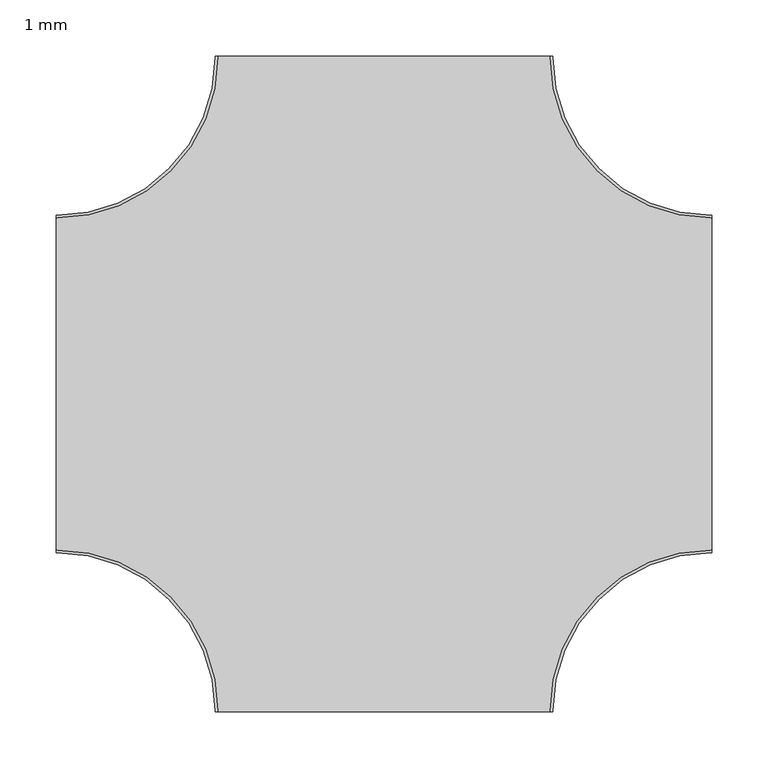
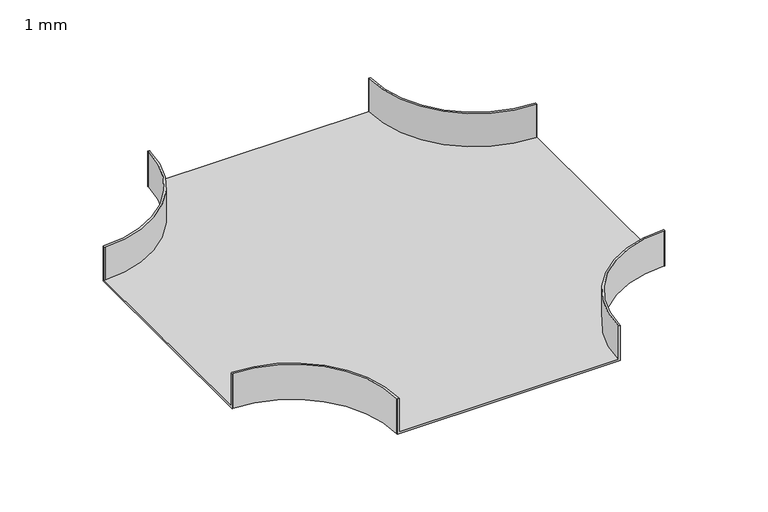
"""IFC4 building model written with IfcOpenShell, lengths in millimetres: cable carrier fitting geometry, BAKS_Czwórnik_koryta (R140) : 1 mm."""

import ifcopenshell
import ifcopenshell.guid

model = None  # the IFC model being written
_history = None  # IfcOwnerHistory: only IFC2X3 demands one
_inside = {}  # id of a spatial element -> (the spatial element, [elements in it])
_under = {}  # id of a project, library or spatial element -> (it, [spatial elements below it])
_declared = {}  # id of a project -> (the project, [libraries it declares])
_typed = {}  # id of a type object -> (the type object, [elements of that type])
_made_of = {}  # id of a material, layer set ... -> (it, [elements and type objects made of it])


def new_model(schema):
    """Start an empty IFC model of exactly this schema.

    Asked for "IFC4X3", IfcOpenShell would pick the latest addendum, in which some entities
    have other attributes; the version numbers below select the first issue.
    IFC2X3 requires an IfcOwnerHistory on every rooted entity: one is made here for all.
    """
    global model, _history
    if schema == "IFC4X3":
        model = ifcopenshell.file(schema_version=(4, 3, 0, 0))
    else:
        model = ifcopenshell.file(schema=schema)
    _inside.clear()
    _under.clear()
    _declared.clear()
    _typed.clear()
    _made_of.clear()
    _history = None
    if model.schema == "IFC2X3":
        org = make("IfcOrganization", Name="unknown")
        user = make(
            "IfcPersonAndOrganization",
            ThePerson=make("IfcPerson", FamilyName="unknown"),
            TheOrganization=org,
        )
        app = make(
            "IfcApplication",
            ApplicationDeveloper=org,
            Version="unknown",
            ApplicationFullName="unknown",
            ApplicationIdentifier="unknown",
        )
        _history = make(
            "IfcOwnerHistory",
            OwningUser=user,
            OwningApplication=app,
            ChangeAction="ADDED",
            CreationDate=0,
        )
    return model


def make(cls, **values):
    """One entity of the class cls with the attributes given. An attribute that is None is left unset."""
    return model.create_entity(
        cls, **{name: value for name, value in values.items() if value is not None}
    )


def rooted(cls, **values):
    """An entity with a GlobalId (a new one), such as an element, a storey or a relation."""
    return make(cls, GlobalId=ifcopenshell.guid.new(), OwnerHistory=_history, **values)


def si_unit(unit_type, name, prefix=None):
    """IfcSIUnit, for example si_unit("LENGTHUNIT", "METRE", prefix="MILLI")."""
    return make("IfcSIUnit", UnitType=unit_type, Prefix=prefix, Name=name)


def assignment(units):
    """IfcUnitAssignment: the units of a project."""
    return None if units is None else make("IfcUnitAssignment", Units=units)


def point(xyz):
    """IfcCartesianPoint."""
    return None if xyz is None else make("IfcCartesianPoint", Coordinates=xyz)


def direction(xyz):
    """IfcDirection."""
    return None if xyz is None else make("IfcDirection", DirectionRatios=xyz)


def frame(location, z_axis=None, x_axis=None):
    """IfcAxis2Placement3D, a coordinate frame: its origin and axes. An axis left out is left unset."""
    return make(
        "IfcAxis2Placement3D",
        Location=point(location),
        Axis=direction(z_axis),
        RefDirection=direction(x_axis),
    )


def origin():
    """The frame at (0, 0, 0) with its axes left unset."""
    return frame((0.0, 0.0, 0.0))


def place(relative_to, where):
    """IfcLocalPlacement: puts the frame where relative to a parent placement (None: the world)."""
    return make(
        "IfcLocalPlacement", PlacementRelTo=relative_to, RelativePlacement=where
    )


def context(
    kind, dimensions, precision=None, world=None, true_north=None, identifier=None
):
    """IfcGeometricRepresentationContext, for example the 3D "Model" context."""
    return make(
        "IfcGeometricRepresentationContext",
        ContextIdentifier=identifier,
        ContextType=kind,
        CoordinateSpaceDimension=dimensions,
        Precision=precision,
        WorldCoordinateSystem=world,
        TrueNorth=true_north,
    )


def project(units=None, contexts=None):
    """IfcProject with its units and contexts."""
    return rooted(
        "IfcProject",
        Name="project",
        RepresentationContexts=contexts,
        UnitsInContext=assignment(units),
    )


def spatial(cls, under=None, at=None, **own):
    """A site, building, storey or space (cls), placed at a placement, below another one or the project."""
    s = rooted(cls, ObjectPlacement=at, **own)
    if under is not None:
        _under.setdefault(under.id(), (under, []))[1].append(s)
    return s


def polyline(points):
    """IfcPolyline through the points."""
    return make("IfcPolyline", Points=[point(p) for p in points])


def circle_curve(where, radius):
    """IfcCircle in the frame where."""
    return make("IfcCircle", Position=where, Radius=radius)


def shape(context_of_items, identifier, shape_type, items):
    """IfcShapeRepresentation: the items that make up one representation, for example the "Body"."""
    return make(
        "IfcShapeRepresentation",
        ContextOfItems=context_of_items,
        RepresentationIdentifier=identifier,
        RepresentationType=shape_type,
        Items=items,
    )


def source(mapping_origin, context_of_items, identifier, shape_type, items):
    """IfcRepresentationMap: a shape defined once, which mapped items show again and again."""
    return make(
        "IfcRepresentationMap",
        MappingOrigin=mapping_origin,
        MappedRepresentation=shape(context_of_items, identifier, shape_type, items),
    )


def transform(
    local_origin,
    x_axis=None,
    y_axis=None,
    z_axis=None,
    scale=None,
    scale2=None,
    scale3=None,
    uniform=True,
):
    """IfcCartesianTransformationOperator3D, or its non-uniform kind. x_axis, y_axis, z_axis: its Axis1, 2, 3."""
    if uniform:
        return make(
            "IfcCartesianTransformationOperator3D",
            Axis1=direction(x_axis),
            Axis2=direction(y_axis),
            LocalOrigin=point(local_origin),
            Scale=scale,
            Axis3=direction(z_axis),
        )
    return make(
        "IfcCartesianTransformationOperator3DnonUniform",
        Axis1=direction(x_axis),
        Axis2=direction(y_axis),
        LocalOrigin=point(local_origin),
        Scale=scale,
        Axis3=direction(z_axis),
        Scale2=scale2,
        Scale3=scale3,
    )


def mapped(mapping_source, mapping_target):
    """IfcMappedItem: shows the shape of a source again, moved by a transform."""
    return make(
        "IfcMappedItem", MappingSource=mapping_source, MappingTarget=mapping_target
    )


def made_of(thing, what):
    """Note that an element or type object is made of a material, layer set ...; save() writes the relation."""
    if what is not None:
        _made_of.setdefault(what.id(), (what, []))[1].append(thing)
    return thing


def element(
    cls,
    number,
    at=None,
    inside=None,
    cuts=None,
    type_object=None,
    material=None,
    context=None,
    identifier="Body",
    shape_type=None,
    held_by="IfcProductDefinitionShape",
    body=None,
    shapes=None,
    **own,
):
    """One element of the class cls, such as IfcWall. Its Tag is "e" and its number.

    at: its placement. inside: the storey or other place that contains it. cuts: it is an
    opening in that element (IfcRelVoidsElement). A single representation is given by context,
    identifier, shape_type and body (its items); several are given by shapes. held_by: the class
    of the entity that holds the representations. save() writes the other relations.
    """
    e = rooted(cls, Tag="e%d" % number, ObjectPlacement=at, **own)
    if body is not None:
        shapes = [shape(context, identifier, shape_type, body)]
    if shapes is not None:
        e.Representation = make(held_by, Representations=shapes)
    if inside is not None:
        _inside.setdefault(inside.id(), (inside, []))[1].append(e)
    if cuts is not None:
        rooted(
            "IfcRelVoidsElement", RelatingBuildingElement=cuts, RelatedOpeningElement=e
        )
    if type_object is not None:
        _typed.setdefault(type_object.id(), (type_object, []))[1].append(e)
    return made_of(e, material)


def aggregate(whole, parts):
    """IfcRelAggregates: a whole, such as a stair, and the parts it consists of."""
    return rooted("IfcRelAggregates", RelatingObject=whole, RelatedObjects=parts)


def save(model, path):
    """Write the relations noted so far, then the file.

    IfcRelAggregates (storeys below a building ...), IfcRelContainedInSpatialStructure (elements
    in a storey), IfcRelDefinesByType, IfcRelAssociatesMaterial and IfcRelDeclares: one each for
    every whole, place, type object, material and project.
    """
    for whole, parts in _under.values():
        aggregate(whole, parts)
    for where, things in _inside.values():
        rooted(
            "IfcRelContainedInSpatialStructure",
            RelatedElements=things,
            RelatingStructure=where,
        )
    for kind, things in _typed.values():
        rooted("IfcRelDefinesByType", RelatedObjects=things, RelatingType=kind)
    for what, things in _made_of.values():
        rooted("IfcRelAssociatesMaterial", RelatedObjects=things, RelatingMaterial=what)
    for by, libraries in _declared.values():
        rooted("IfcRelDeclares", RelatingContext=by, RelatedDefinitions=libraries)
    model.write(path)


def plane_surface(at):
    """IfcPlane: the flat surface through the origin of the frame at, square to its z axis."""
    return make("IfcPlane", Position=at)


def cylinder_surface(at, radius):
    """IfcCylindricalSurface: all points at the distance radius from the z axis of the frame at."""
    return make("IfcCylindricalSurface", Position=at, Radius=radius)


def revolved_surface(curve, axis_point, axis_direction):
    """IfcSurfaceOfRevolution: the curve turned about the line through axis_point along axis_direction."""
    return make(
        "IfcSurfaceOfRevolution",
        SweptCurve=make("IfcArbitraryOpenProfileDef", ProfileType="CURVE", Curve=curve),
        AxisPosition=make("IfcAxis1Placement", Location=point(axis_point), Axis=direction(axis_direction)),
    )


def advanced_brep(points, edges, surfaces, faces):
    """IfcAdvancedBrep: a solid bounded by faces that lie on surfaces and meet in shared edges.

    An edge is (start, end): straight between two places in points (the first is 0);
    or (start, end, curve); or (start, end, curve, False) where it runs against its curve.
    A face is (place in surfaces, loops), or (place, loops, False) where it looks against
    its surface's normal. A loop lists edges by number (the first is 1), with a minus sign
    where the edge is run from its end to its start. The first loop is the outer one.
    """
    corners = [point(p) for p in points]
    vertices = [make("IfcVertexPoint", VertexGeometry=c) for c in corners]
    made = []
    for start, end, *more in edges:
        made.append(
            make(
                "IfcEdgeCurve",
                EdgeStart=vertices[start],
                EdgeEnd=vertices[end],
                EdgeGeometry=more[0] if more else make("IfcPolyline", Points=[corners[start], corners[end]]),
                SameSense=more[1] if len(more) > 1 else True,
            )
        )
    hull = []
    for where, loops, *sense in faces:
        bounds = []
        for j, loop in enumerate(loops):
            ring = [make("IfcOrientedEdge", EdgeElement=made[abs(k) - 1], Orientation=k > 0) for k in loop]
            bounds.append(
                make(
                    "IfcFaceOuterBound" if j == 0 else "IfcFaceBound",
                    Bound=make("IfcEdgeLoop", EdgeList=ring),
                    Orientation=True,
                )
            )
        hull.append(make("IfcAdvancedFace", Bounds=bounds, FaceSurface=surfaces[where], SameSense=sense[0] if sense else True))
    return make("IfcAdvancedBrep", Outer=make("IfcClosedShell", CfsFaces=hull))


def cable_carrier_fitting_1_mm_2da36d92(model_context):
    return source(origin(), model_context, "Body", "AdvancedBrep", [
        advanced_brep(
        [(-150.0, -290.0, 25.0), (-150.0, -291.0, 25.0), (-147.46, -291.0, 25.0), (-147.46, -290.0, 25.0), (-290.0, -147.46, 25.0), (-291.0, -147.46, 25.0), (-291.0, -150.0, 25.0), (-290.0, -150.0, 25.0), (150.0, -290.0, 25.0), (290.0, -150.0, 25.0), (291.0, -150.0, 25.0), (291.0, -147.46, 25.0), (290.0, -147.46, 25.0), (147.46, -290.0, 25.0), (147.46, -291.0, 25.0), (150.0, -291.0, 25.0), (-290.0, 150.0, 25.0), (-291.0, 150.0, 25.0), (-291.0, 147.46, 25.0), (-290.0, 147.46, 25.0), (-147.46, 290.0, 25.0), (-147.46, 291.0, 25.0), (-150.0, 291.0, 25.0), (-150.0, 290.0, 25.0), (147.46, 290.0, 25.0), (290.0, 147.46, 25.0), (291.0, 147.46, 25.0), (291.0, 150.0, 25.0), (290.0, 150.0, 25.0), (150.0, 290.0, 25.0), (150.0, 291.0, 25.0), (147.46, 291.0, 25.0), (-150.0, -290.0, -25.0), (-290.0, -150.0, -25.0), (-291.0, -150.0, -25.0), (-291.0, 150.0, -25.0), (-290.0, 150.0, -25.0), (-150.0, 290.0, -25.0), (-150.0, 291.0, -25.0), (150.0, 291.0, -25.0), (150.0, 290.0, -25.0), (290.0, 150.0, -25.0), (291.0, 150.0, -25.0), (291.0, -150.0, -25.0), (290.0, -150.0, -25.0), (150.0, -290.0, -25.0), (150.0, -291.0, -25.0), (-150.0, -291.0, -25.0), (-150.0, -290.0, -22.46), (147.46, -291.0, -22.46), (-147.46, -291.0, -22.46), (-147.46, -290.0, -22.46), (-290.0, -147.46, -22.46), (-291.0, -147.46, -22.46), (-291.0, 147.46, -22.46), (-290.0, -150.0, -22.46), (150.0, -290.0, -22.46), (290.0, -150.0, -22.46), (291.0, 147.46, -22.46), (291.0, -147.46, -22.46), (290.0, -147.46, -22.46), (147.46, -290.0, -22.46), (290.0, 147.46, -22.46), (147.46, 290.0, -22.46), (147.46, 291.0, -22.46), (-147.46, 291.0, -22.46), (-147.46, 290.0, -22.46), (-290.0, 147.46, -22.46), (-290.0, 150.0, -22.46), (-150.0, 290.0, -22.46), (290.0, 150.0, -22.46), (150.0, 290.0, -22.46)],
        [
            (0, 1),
            (1, 2),
            (2, 3),
            (3, 4, circle_curve(frame((-290.0, -290.0, 25.0), z_axis=(0.0, 0.0, 1.0), x_axis=(1.0, 0.0, 0.0)), 142.54)),
            (4, 5),
            (5, 6),
            (6, 7),
            (7, 0, circle_curve(frame((-290.0, -290.0, 25.0), z_axis=(0.0, 0.0, -1.0), x_axis=(1.0, 0.0, 0.0)), 140.0)),
            (8, 9, circle_curve(frame((290.0, -290.0, 25.0), z_axis=(0.0, 0.0, -1.0), x_axis=(1.0, 0.0, 0.0)), 140.0)),
            (9, 10),
            (10, 11),
            (11, 12),
            (12, 13, circle_curve(frame((290.0, -290.0, 25.0), z_axis=(0.0, 0.0, 1.0), x_axis=(1.0, 0.0, 0.0)), 142.54)),
            (13, 14),
            (14, 15),
            (15, 8),
            (16, 17),
            (17, 18),
            (18, 19),
            (19, 20, circle_curve(frame((-290.0, 290.0, 25.0), z_axis=(0.0, 0.0, 1.0), x_axis=(1.0, 0.0, 0.0)), 142.54)),
            (20, 21),
            (21, 22),
            (22, 23),
            (23, 16, circle_curve(frame((-290.0, 290.0, 25.0), z_axis=(0.0, 0.0, -1.0), x_axis=(1.0, 0.0, 0.0)), 140.0)),
            (24, 25, circle_curve(frame((290.0, 290.0, 25.0), z_axis=(0.0, 0.0, 1.0), x_axis=(1.0, 0.0, 0.0)), 142.54)),
            (25, 26),
            (26, 27),
            (27, 28),
            (28, 29, circle_curve(frame((290.0, 290.0, 25.0), z_axis=(0.0, 0.0, -1.0), x_axis=(1.0, 0.0, 0.0)), 140.0)),
            (29, 30),
            (30, 31),
            (31, 24),
            (32, 33, circle_curve(frame((-290.0, -290.0, -25.0), z_axis=(0.0, 0.0, 1.0), x_axis=(1.0, 0.0, 0.0)), 140.0)),
            (33, 34),
            (34, 35),
            (35, 36),
            (36, 37, circle_curve(frame((-290.0, 290.0, -25.0), z_axis=(0.0, 0.0, 1.0), x_axis=(1.0, 0.0, 0.0)), 140.0)),
            (37, 38),
            (38, 39),
            (39, 40),
            (40, 41, circle_curve(frame((290.0, 290.0, -25.0), z_axis=(0.0, 0.0, 1.0), x_axis=(1.0, 0.0, 0.0)), 140.0)),
            (41, 42),
            (42, 43),
            (43, 44),
            (44, 45, circle_curve(frame((290.0, -290.0, -25.0), z_axis=(0.0, 0.0, 1.0), x_axis=(1.0, 0.0, 0.0)), 140.0)),
            (45, 46),
            (46, 47),
            (47, 32),
            (47, 1),
            (0, 48),
            (48, 32),
            (46, 15),
            (14, 49),
            (49, 50),
            (50, 2),
            (50, 51),
            (51, 3),
            (51, 52, circle_curve(frame((-290.0, -290.0, -22.46), z_axis=(0.0, 0.0, 1.0), x_axis=(1.0, 0.0, 0.0)), 142.54)),
            (52, 4),
            (52, 53),
            (53, 5),
            (53, 54),
            (54, 18),
            (17, 35),
            (34, 6),
            (33, 55),
            (55, 7),
            (8, 56),
            (56, 45),
            (44, 57),
            (57, 9),
            (43, 10),
            (42, 27),
            (26, 58),
            (58, 59),
            (59, 11),
            (59, 60),
            (60, 12),
            (60, 61, circle_curve(frame((290.0, -290.0, -22.46), z_axis=(0.0, 0.0, 1.0), x_axis=(1.0, 0.0, 0.0)), 142.54)),
            (61, 13),
            (61, 49),
            (58, 62),
            (62, 63, circle_curve(frame((290.0, 290.0, -22.46), z_axis=(0.0, 0.0, -1.0), x_axis=(1.0, 0.0, 0.0)), 142.54)),
            (63, 64),
            (64, 65),
            (65, 66),
            (66, 67, circle_curve(frame((-290.0, 290.0, -22.46), z_axis=(0.0, 0.0, -1.0), x_axis=(1.0, 0.0, 0.0)), 142.54)),
            (67, 54),
            (16, 68),
            (68, 36),
            (67, 19),
            (66, 20),
            (65, 21),
            (64, 31),
            (30, 39),
            (38, 22),
            (37, 69),
            (69, 23),
            (24, 63),
            (62, 25),
            (41, 70),
            (70, 28),
            (40, 71),
            (71, 29),
        ],
        [
            plane_surface(frame((-150.0, -290.0, 25.0), z_axis=(0.0, 0.0, 1.0), x_axis=(0.0, -1.0, 0.0))),
            plane_surface(frame((-150.0, -290.0, -25.0), z_axis=(0.0, 0.0, -1.0), x_axis=(0.0, 1.0, 0.0))),
            plane_surface(frame((-150.0, -290.0, 25.0), z_axis=(-1.0, 0.0, 0.0), x_axis=(0.0, 0.0, -1.0))),
            plane_surface(frame((-150.0, -291.0, 25.0), z_axis=(0.0, -1.0, 0.0), x_axis=(0.0, 0.0, -1.0))),
            plane_surface(frame((-147.46, -291.0, 25.0), z_axis=(1.0, 0.0, 0.0), x_axis=(0.0, 0.0, -1.0))),
            cylinder_surface(frame((-290.0, -290.0, -25.0), z_axis=(0.0, 0.0, 1.0), x_axis=(1.0, 0.0, 0.0)), 142.54),
            plane_surface(frame((-290.0, -147.46, 25.0), z_axis=(0.0, 1.0, 0.0), x_axis=(0.0, 0.0, -1.0))),
            plane_surface(frame((-291.0, -147.46, 25.0), z_axis=(-1.0, 0.0, 0.0), x_axis=(0.0, 0.0, -1.0))),
            plane_surface(frame((-291.0, -150.0, 25.0), z_axis=(2.8594460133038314e-12, -1.0, 0.0), x_axis=(0.0, 0.0, -1.0))),
            revolved_surface(polyline([(-150.0, -290.0, -25.0), (-150.0, -290.0, 25.0)]), (-290.0, -290.0, -25.0), (0.0, 0.0, -1.0)),
            revolved_surface(polyline([(430.0, -290.0, -25.0), (430.0, -290.0, 25.0)]), (290.0, -290.0, 0.0), (0.0, 0.0, -1.0)),
            plane_surface(frame((290.0, -150.0, 25.0), z_axis=(-2.8594460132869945e-12, -1.0, 0.0), x_axis=(0.0, 0.0, -1.0))),
            plane_surface(frame((291.0, -150.0, 25.0), z_axis=(1.0, 0.0, 0.0), x_axis=(0.0, 0.0, -1.0))),
            plane_surface(frame((291.0, -147.46, 25.0), z_axis=(0.0, 1.0, 0.0), x_axis=(0.0, 0.0, -1.0))),
            cylinder_surface(frame((290.0, -290.0, 0.0), z_axis=(0.0, 0.0, 1.0), x_axis=(1.0, 0.0, 0.0)), 142.54),
            plane_surface(frame((147.46, -290.0, 25.0), z_axis=(-1.0, 0.0, 0.0), x_axis=(0.0, 0.0, -1.0))),
            plane_surface(frame((150.0, -291.0, 25.0), z_axis=(1.0, 0.0, 0.0), x_axis=(0.0, 0.0, -1.0))),
            plane_surface(frame((-150.0, -290.0, -22.46), z_axis=(0.0, 0.0, 1.0), x_axis=(0.0, -1.0, 0.0))),
            plane_surface(frame((-290.0, 150.0, 25.0), z_axis=(1.2842127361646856e-11, 1.0, 0.0), x_axis=(0.0, 0.0, -1.0))),
            plane_surface(frame((-291.0, 147.46, 25.0), z_axis=(-1.5278578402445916e-11, -1.0, 0.0), x_axis=(0.0, 0.0, -1.0))),
            cylinder_surface(frame((-290.0, 290.0, 0.0), z_axis=(0.0, 0.0, 1.0), x_axis=(1.0, 0.0, 0.0)), 142.54),
            plane_surface(frame((-147.46, 290.0, 25.0), z_axis=(1.0, 0.0, 0.0), x_axis=(0.0, 0.0, -1.0))),
            plane_surface(frame((-147.46, 291.0, 25.0), z_axis=(0.0, 1.0, 0.0), x_axis=(0.0, 0.0, -1.0))),
            plane_surface(frame((-150.0, 291.0, 25.0), z_axis=(-1.0, 0.0, 0.0), x_axis=(0.0, 0.0, -1.0))),
            revolved_surface(polyline([(-150.0, 290.0, -25.0), (-150.0, 290.0, 25.0)]), (-290.0, 290.0, 0.0), (0.0, 0.0, -1.0)),
            cylinder_surface(frame((290.0, 290.0, 0.0), z_axis=(0.0, 0.0, 1.0), x_axis=(1.0, 0.0, 0.0)), 142.54),
            plane_surface(frame((290.0, 147.46, 25.0), z_axis=(0.0, -1.0, 0.0), x_axis=(0.0, 0.0, -1.0))),
            plane_surface(frame((291.0, 150.0, 25.0), z_axis=(0.0, 1.0, 0.0), x_axis=(0.0, 0.0, -1.0))),
            revolved_surface(polyline([(430.0, 290.0, -25.0), (430.0, 290.0, 25.0)]), (290.0, 290.0, 0.0), (0.0, 0.0, -1.0)),
            plane_surface(frame((150.0, 290.0, 25.0), z_axis=(1.0, 2.487210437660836e-12, 0.0), x_axis=(0.0, 0.0, -1.0))),
            plane_surface(frame((147.46, 291.0, 25.0), z_axis=(-1.0, -3.367039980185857e-12, 0.0), x_axis=(0.0, 0.0, -1.0))),
        ],
        [
            (0, [[1, 2, 3, 4, 5, 6, 7, 8]]),
            (0, [[9, 10, 11, 12, 13, 14, 15, 16]]),
            (0, [[17, 18, 19, 20, 21, 22, 23, 24]]),
            (0, [[25, 26, 27, 28, 29, 30, 31, 32]]),
            (1, [[33, 34, 35, 36, 37, 38, 39, 40, 41, 42, 43, 44, 45, 46, 47, 48]]),
            (2, [[49, -1, 50, 51, -48]]),
            (3, [[-2, -49, -47, 52, -15, 53, 54, 55]]),
            (4, [[-3, -55, 56, 57]]),
            (5, [[-4, -57, 58, 59]]),
            (6, [[-5, -59, 60, 61]]),
            (7, [[-6, -61, 62, 63, -18, 64, -35, 65]]),
            (8, [[-7, -65, -34, 66, 67]]),
            (9, [[-8, -67, -66, -33, -51, -50]]),
            (10, [[-9, 68, 69, -45, 70, 71]]),
            (11, [[72, -10, -71, -70, -44]]),
            (12, [[-11, -72, -43, 73, -27, 74, 75, 76]]),
            (13, [[-12, -76, 77, 78]]),
            (14, [[-13, -78, 79, 80]]),
            (15, [[-14, -80, 81, -53]]),
            (16, [[-16, -52, -46, -69, -68]]),
            (17, [[-54, -81, -79, -77, -75, 82, 83, 84, 85, 86, 87, 88, -62, -60, -58, -56]]),
            (18, [[-64, -17, 89, 90, -36]]),
            (19, [[-19, -63, -88, 91]]),
            (20, [[-20, -91, -87, 92]]),
            (21, [[-21, -92, -86, 93]]),
            (22, [[-22, -93, -85, 94, -31, 95, -39, 96]]),
            (23, [[-23, -96, -38, 97, 98]]),
            (24, [[-24, -98, -97, -37, -90, -89]]),
            (25, [[-25, 99, -83, 100]]),
            (26, [[-26, -100, -82, -74]]),
            (27, [[-28, -73, -42, 101, 102]]),
            (28, [[-29, -102, -101, -41, 103, 104]]),
            (29, [[-95, -30, -104, -103, -40]]),
            (30, [[-32, -94, -84, -99]]),
        ],
    ),
    ])


if __name__ == "__main__":
    model = new_model("IFC4")
    model_context = context("Model", 3, world=origin())
    ifc_project = project(units=[si_unit("LENGTHUNIT", "METRE", prefix="MILLI")], contexts=[model_context])
    site = spatial("IfcSite", under=ifc_project)
    building = spatial("IfcBuilding", under=site)
    placement = place(None, origin())
    cable_carrier_fitting_1_mm_shape = cable_carrier_fitting_1_mm_2da36d92(model_context)
    element("IfcCableCarrierFitting", 1, ObjectType="BAKS_Czwórnik_koryta (R140) : 1 mm", at=placement, inside=building, context=model_context, shape_type="MappedRepresentation", body=[
        mapped(cable_carrier_fitting_1_mm_shape, transform((0.0, 0.0, 0.0), x_axis=(1.0, 0.0, 0.0), y_axis=(0.0, 1.0, 0.0), z_axis=(0.0, 0.0, 1.0))),
    ])
    save(model, "model.ifc")
